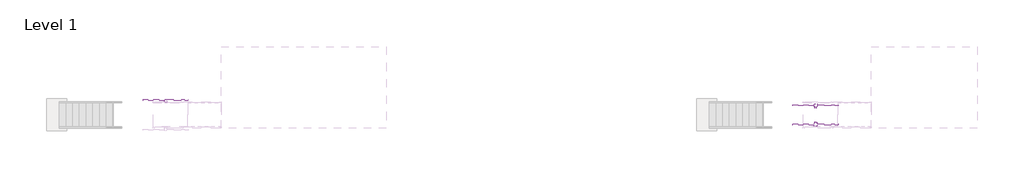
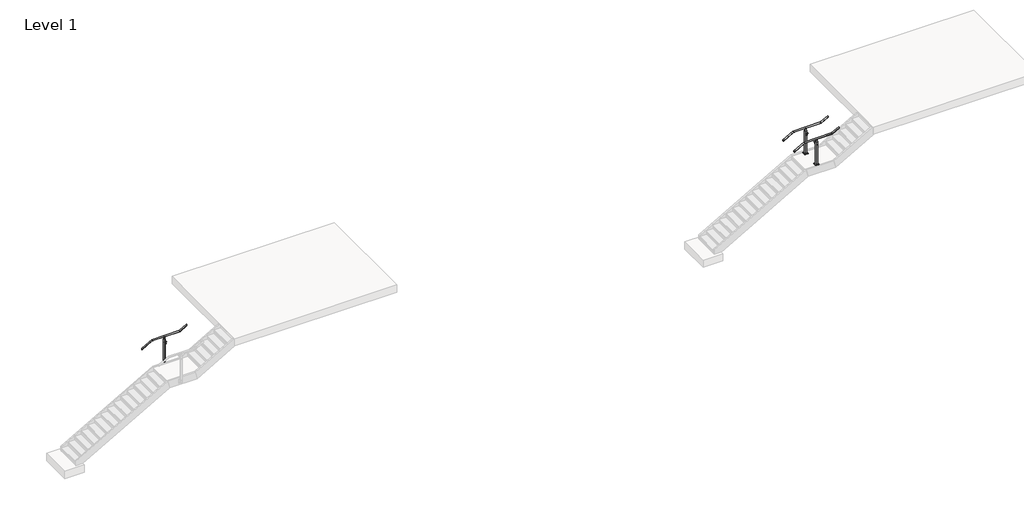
# One storey, part 21 of 26: 3 railings.
"""IFC4 building model written with IfcOpenShell, lengths in millimetres."""

from ifc_helpers import new_model, si_unit, point, frame, frame_2d, origin, place, context, project, spatial, polyline, circle_curve, ellipse_curve, trimmed, segment, composite_curve, outline, extrude, faceted_brep, element, save
from ifc_brep_helpers import plane_surface, cylinder_surface, advanced_brep

model = new_model("IFC4")

# Units and contexts
model_context = context("Model", 3, world=origin())
ifc_project = project(units=[si_unit("LENGTHUNIT", "METRE", prefix="MILLI")], contexts=[model_context])

# Site, building, storey
site = spatial("IfcSite", under=ifc_project)
building = spatial("IfcBuilding", under=site)
storey = spatial("IfcBuildingStorey", under=building, Name="Level 1", Elevation=0.0)

# Railings
placement = place(None, origin())
element("IfcRailing", 1, ObjectType="VIVA-CUBE-Glass-Fascia Mount-Stair-Landing", at=placement, inside=storey, context=model_context, shape_type="SolidModel", body=[
    advanced_brep(
    [(87644.1145262, 16840.3479941, 3009.6740933), (87644.1145262, 16891.1479941, 3009.6740933), (88031.8598629, 16840.3479941, 3231.2428571), (88031.8598629, 16891.1479941, 3231.2428571), (89098.6598629, 16840.3479941, 3231.2428571), (89098.6598629, 16891.1479941, 3231.2428571), (89368.1395262, 16840.3479941, 3385.2312362), (89368.1395262, 16891.1479941, 3385.2312362)],
    [
        (0, 1, ellipse_curve(frame((87644.1145262, 16865.7479941, 3009.6740933), z_axis=(-1.0, 0.0, 0.0), x_axis=(0.0, 0.0, -0.9999999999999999)), 29.2544781, 25.4)),
        (1, 0, ellipse_curve(frame((87644.1145262, 16865.7479941, 3009.6740933), z_axis=(-1.0, 0.0, 0.0), x_axis=(0.0, 0.0, -0.9999999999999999)), 29.2544781, 25.4)),
        (0, 2),
        (2, 3, ellipse_curve(frame((88031.8598629, 16865.7479941, 3231.2428571), z_axis=(-0.966499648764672, 0.0, -0.25666793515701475), x_axis=(0.25666793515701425, 0.0, -0.9664996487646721)), 26.2804027, 25.4)),
        (3, 1),
        (3, 2, ellipse_curve(frame((88031.8598629, 16865.7479941, 3231.2428571), z_axis=(-0.966499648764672, 0.0, -0.25666793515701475), x_axis=(0.25666793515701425, 0.0, -0.9664996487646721)), 26.2804027, 25.4)),
        (2, 4),
        (4, 5, ellipse_curve(frame((89098.6598629, 16865.7479941, 3231.2428571), z_axis=(-0.9664996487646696, 0.0, -0.2566679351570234), x_axis=(-0.2566679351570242, 0.0, 0.9664996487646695)), 26.2804027, 25.4)),
        (5, 3),
        (5, 4, ellipse_curve(frame((89098.6598629, 16865.7479941, 3231.2428571), z_axis=(-0.9664996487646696, 0.0, -0.2566679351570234), x_axis=(-0.2566679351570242, 0.0, 0.9664996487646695)), 26.2804027, 25.4)),
        (6, 7, ellipse_curve(frame((89368.1395262, 16865.7479941, 3385.2312362), z_axis=(1.0, 0.0, 0.0), x_axis=(0.0, 0.0, -1.0)), 29.2544781, 25.4)),
        (7, 6, ellipse_curve(frame((89368.1395262, 16865.7479941, 3385.2312362), z_axis=(1.0, 0.0, 0.0), x_axis=(0.0, 0.0, -1.0)), 29.2544781, 25.4)),
        (4, 6),
        (7, 5),
    ],
    [
        plane_surface(frame((87644.1145262, 16865.7479941, 3038.9285714), z_axis=(-1.0, 0.0, 0.0), x_axis=(0.0, 1.0, 0.0))),
        cylinder_surface(frame((87656.7164552, 16865.7479941, 3016.8751956), z_axis=(-0.868243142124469, 0.0, -0.49613893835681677), x_axis=(0.0, 1.0, 0.0)), 25.4),
        cylinder_surface(frame((88025.1145262, 16865.7479941, 3231.2428571), z_axis=(-1.0, 0.0, 0.0), x_axis=(0.0, 1.0, 0.0)), 25.4),
        plane_surface(frame((89368.1395262, 16865.7479941, 3414.4857143), z_axis=(1.0, 0.0, 0.0), x_axis=(0.0, 1.0, 0.0))),
        cylinder_surface(frame((89104.5164552, 16865.7479941, 3234.5894813), z_axis=(-0.8682431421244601, 0.0, -0.4961389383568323), x_axis=(0.0, 1.0, 0.0)), 25.4),
    ],
    [
        (0, [[1, 2]]),
        (1, [[-1, 3, 4, 5]]),
        (1, [[-2, -5, 6, -3]]),
        (2, [[-4, 7, 8, 9]]),
        (2, [[-6, -9, 10, -7]]),
        (3, [[11, 12]]),
        (4, [[-8, 13, -12, 14]]),
        (4, [[-10, -14, -11, -13]]),
    ],
),
    extrude(outline(composite_curve([segment(trimmed(circle_curve(frame_2d((0.0, 7.0)), 7.0), [point((0.0, 14.0))], [point((0.0, 0.0))], False, "CARTESIAN"), True, "CONTINUOUS"), segment(trimmed(circle_curve(frame_2d((0.0, 7.0)), 7.0), [point((0.0, 0.0))], [point((0.0, 14.0))], False, "CARTESIAN"), True, "CONTINUOUS")], self_intersect=False)), frame((88506.6192867, 16780.0641683, 2972.3156836), z_axis=(-0.0012555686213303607, 0.0, 0.999999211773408), x_axis=(-0.999999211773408, 0.0, -0.0012555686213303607)), (0.0, 0.0, 1.0), 75.97),
    extrude(outline(composite_curve([segment(polyline([(16785.3458245, 3056.8509005), (16786.3722142, 3055.8335135)]), True, "CONTINUOUS"), segment(trimmed(circle_curve(frame_2d((16785.3162363, 3054.7681916)), 1.5), [point((16786.3722142, 3055.8335135))], [point((16786.3016378, 3053.6372698))], False, "CARTESIAN"), True, "CONTINUOUS"), segment(trimmed(circle_curve(frame_2d((16771.8162363, 3070.2618193)), 22.05), [point((16786.3016378, 3053.6372698))], [point((16757.3308348, 3053.6372698))], False, "CARTESIAN"), True, "CONTINUOUS"), segment(trimmed(circle_curve(frame_2d((16758.3162363, 3054.7681916)), 1.5), [point((16757.3308348, 3053.6372698))], [point((16757.2602584, 3055.8335135))], False, "CARTESIAN"), True, "CONTINUOUS"), segment(polyline([(16757.2602584, 3055.8335135), (16758.2866481, 3056.8509005)]), True, "CONTINUOUS"), segment(trimmed(circle_curve(frame_2d((16771.8162363, 3070.2618193)), 19.05), [point((16758.2866481, 3056.8509005))], [point((16785.3458245, 3056.8509005))], True, "CARTESIAN"), True, "CONTINUOUS")], self_intersect=False)), frame((88468.4477528, 0.0, 0.0), z_axis=(1.0, 0.0, 0.0), x_axis=(0.0, 1.0, 0.0)), (0.0, 0.0, 1.0), 74.5229187),
    extrude(outline(composite_curve([segment(trimmed(circle_curve(frame_2d((2999.1922796, 88506.5593832)), 12.5), [point((2999.1922796, 88519.0593832))], [point((2999.1922796, 88494.0593832))], False, "CARTESIAN"), True, "CONTINUOUS"), segment(trimmed(circle_curve(frame_2d((2999.1922796, 88506.5593832)), 12.5), [point((2999.1922796, 88494.0593832))], [point((2999.1922796, 88519.0593832))], False, "CARTESIAN"), True, "CONTINUOUS")], self_intersect=False)), frame((0.0, 16758.2866481, 0.0), z_axis=(0.0, 1.0, 0.0), x_axis=(0.0, 0.0, 1.0)), (0.0, 0.0, 1.0), 82.061346),
    extrude(outline(polyline([(88570.0239012, 16811.2349585), (88443.0239012, 16811.2349585), (88443.0239012, 16821.2171585), (88570.0239012, 16821.2171585), (88570.0239012, 16811.2349585)])), frame((0.0, 0.0, 1999.3428571), z_axis=(0.0, 0.0, 1.0), x_axis=(1.0, 0.0, 0.0)), (0.0, 0.0, 1.0), 152.4),
    extrude(outline(composite_curve([segment(polyline([(2151.7428571, 88567.4839012), (2151.7428571, 88445.5639012)]), True, "CONTINUOUS"), segment(trimmed(circle_curve(frame_2d((2149.2028571, 88445.5639012)), 2.54), [point((2151.7428571, 88445.5639012))], [point((2149.2028571, 88443.0239012))], False, "CARTESIAN"), True, "CONTINUOUS"), segment(polyline([(2149.2028571, 88443.0239012), (2001.8828571, 88443.0239012)]), True, "CONTINUOUS"), segment(trimmed(circle_curve(frame_2d((2001.8828571, 88445.5639012)), 2.54), [point((2001.8828571, 88443.0239012))], [point((1999.3428571, 88445.5639012))], False, "CARTESIAN"), True, "CONTINUOUS"), segment(polyline([(1999.3428571, 88445.5639012), (1999.3428571, 88567.4839012)]), True, "CONTINUOUS"), segment(trimmed(circle_curve(frame_2d((2001.8828571, 88567.4839012)), 2.54), [point((1999.3428571, 88567.4839012))], [point((2001.8828571, 88570.0239012))], False, "CARTESIAN"), True, "CONTINUOUS"), segment(polyline([(2001.8828571, 88570.0239012), (2149.2028571, 88570.0239012)]), True, "CONTINUOUS"), segment(trimmed(circle_curve(frame_2d((2149.2028571, 88567.4839012)), 2.54), [point((2149.2028571, 88570.0239012))], [point((2151.7428571, 88567.4839012))], False, "CARTESIAN"), True, "CONTINUOUS")], self_intersect=False), holes=[composite_curve([segment(trimmed(circle_curve(frame_2d((2132.6928571, 88462.0739012)), 5.55625), [point((2132.6928571, 88467.6301512))], [point((2132.6928571, 88456.5176512))], True, "CARTESIAN"), True, "CONTINUOUS"), segment(trimmed(circle_curve(frame_2d((2132.6928571, 88462.0739012)), 5.55625), [point((2132.6928571, 88456.5176512))], [point((2132.6928571, 88467.6301512))], True, "CARTESIAN"), True, "CONTINUOUS")], self_intersect=False), composite_curve([segment(trimmed(circle_curve(frame_2d((2132.6928571, 88550.9739012)), 5.55625), [point((2132.6928571, 88556.5301512))], [point((2132.6928571, 88545.4176512))], True, "CARTESIAN"), True, "CONTINUOUS"), segment(trimmed(circle_curve(frame_2d((2132.6928571, 88550.9739012)), 5.55625), [point((2132.6928571, 88545.4176512))], [point((2132.6928571, 88556.5301512))], True, "CARTESIAN"), True, "CONTINUOUS")], self_intersect=False), composite_curve([segment(trimmed(circle_curve(frame_2d((2018.3928571, 88550.9739012)), 5.55625), [point((2018.3928571, 88556.5301512))], [point((2018.3928571, 88545.4176512))], True, "CARTESIAN"), True, "CONTINUOUS"), segment(trimmed(circle_curve(frame_2d((2018.3928571, 88550.9739012)), 5.55625), [point((2018.3928571, 88545.4176512))], [point((2018.3928571, 88556.5301512))], True, "CARTESIAN"), True, "CONTINUOUS")], self_intersect=False), composite_curve([segment(trimmed(circle_curve(frame_2d((2018.3928571, 88462.0739012)), 5.55625), [point((2018.3928571, 88467.6301512))], [point((2018.3928571, 88456.5176512))], True, "CARTESIAN"), True, "CONTINUOUS"), segment(trimmed(circle_curve(frame_2d((2018.3928571, 88462.0739012)), 5.55625), [point((2018.3928571, 88456.5176512))], [point((2018.3928571, 88467.6301512))], True, "CARTESIAN"), True, "CONTINUOUS")], self_intersect=False)]), frame((0.0, 16821.2171585, 0.0), z_axis=(0.0, 1.0, 0.0), x_axis=(0.0, 0.0, 1.0)), (0.0, 0.0, 1.0), 9.9822),
    extrude(outline(polyline([(88474.7739012, 16821.2171585), (88474.7739012, 16897.4979941), (88538.2739012, 16897.4979941), (88538.2739012, 16821.2171585), (88474.7739012, 16821.2171585)])), frame((0.0, 0.0, 2026.3303571), z_axis=(0.0, 0.0, 1.0), x_axis=(1.0, 0.0, 0.0)), (0.0, 0.0, 1.0), 9.5123),
    extrude(outline(polyline([(88474.7739012, 16821.2171585), (88474.7739012, 16897.4979941), (88538.2739012, 16897.4979941), (88538.2739012, 16821.2171585), (88474.7739012, 16821.2171585)])), frame((0.0, 0.0, 2115.2303571), z_axis=(0.0, 0.0, 1.0), x_axis=(1.0, 0.0, 0.0)), (0.0, 0.0, 1.0), 9.525),
    extrude(outline(composite_curve([segment(trimmed(circle_curve(frame_2d((2999.1922796, 88506.5593832)), 12.5), [point((2999.1922796, 88494.0593832))], [point((2999.1922796, 88519.0593832))], False, "CARTESIAN"), True, "CONTINUOUS"), segment(trimmed(circle_curve(frame_2d((2999.1922796, 88506.5593832)), 12.5), [point((2999.1922796, 88519.0593832))], [point((2999.1922796, 88494.0593832))], False, "CARTESIAN"), True, "CONTINUOUS")], self_intersect=False)), frame((0.0, 16891.1479941, 0.0), z_axis=(0.0, 1.0, 0.0), x_axis=(0.0, 0.0, 1.0)), (0.0, 0.0, 1.0), 7.62),
    faceted_brep([(88519.2239012, 16853.0479941, 3174.433132), (88519.2239012, 16861.7792441, 3174.433132), (88493.8239012, 16861.7792441, 3174.433132), (88493.8239012, 16853.0479941, 3174.433132), (88493.8239012, 16878.4479941, 3174.433132), (88493.8239012, 16869.7167441, 3174.433132), (88519.2239012, 16869.7167441, 3174.433132), (88519.2239012, 16878.4479941, 3174.433132), (88531.9239012, 16840.3479941, 3118.2776425), (88531.9239012, 16891.1479941, 3118.2776425), (88481.1239012, 16840.3479941, 3118.2776425), (88481.1239012, 16891.1479941, 3118.2776425), (88531.9239012, 16840.3479941, 2035.8426571), (88481.1239012, 16840.3479941, 2035.8426571), (88481.1239012, 16891.1479941, 2035.8426571), (88531.9239012, 16891.1479941, 2035.8426571), (88493.8239012, 16869.7167441, 3186.4734584), (88493.8239012, 16861.7792441, 3186.4734584), (88519.2239012, 16861.7792441, 3186.4734584), (88519.2239012, 16869.7167441, 3186.4734584)], [[[0, 1, 2, 3]], [[4, 5, 6, 7]], [[8, 9, 7, 6, 1, 0]], [[3, 10, 8, 0]], [[3, 2, 5, 4, 11, 10]], [[7, 9, 11, 4]], [[12, 13, 14, 15]], [[12, 8, 10, 13]], [[13, 10, 11, 14]], [[14, 11, 9, 15]], [[15, 9, 8, 12]], [[16, 17, 18, 19]], [[19, 6, 5, 16]], [[18, 1, 6, 19]], [[17, 2, 1, 18]], [[16, 5, 2, 17]]]),
    extrude(outline(composite_curve([segment(trimmed(circle_curve(frame_2d((16879.7626263, 3206.6530378)), 2.9558141), [point((16878.2150686, 3209.1713512))], [point((16882.050966, 3204.7821187))], False, "CARTESIAN"), True, "CONTINUOUS"), segment(trimmed(circle_curve(frame_2d((16865.7847288, 3232.0488022)), 31.75), [point((16882.050966, 3204.7821187))], [point((16850.5340738, 3204.2013603))], False, "CARTESIAN"), True, "CONTINUOUS"), segment(trimmed(circle_curve(frame_2d((16852.0113788, 3206.5739456)), 2.7949225), [point((16850.5340738, 3204.2013603))], [point((16853.256032, 3209.0764304))], False, "CARTESIAN"), True, "CONTINUOUS"), segment(trimmed(circle_curve(frame_2d((16865.6512657, 3231.2861755)), 25.4345159), [point((16853.256032, 3209.0764304))], [point((16878.2150686, 3209.1713512))], True, "CARTESIAN"), True, "CONTINUOUS")], self_intersect=False)), frame((88461.2865012, 0.0, 0.0), z_axis=(1.0, 0.0, 0.0), x_axis=(0.0, 1.0, 0.0)), (0.0, 0.0, 1.0), 90.4748),
    extrude(outline(composite_curve([segment(polyline([(3200.5113742, 88533.5918161), (3200.5113742, 88479.4559863)]), True, "CONTINUOUS"), segment(trimmed(circle_curve(frame_2d((3186.1434593, 88479.4559863)), 14.3679149), [point((3200.5113742, 88479.4559863))], [point((3186.1434593, 88493.8239012))], True, "CARTESIAN"), True, "CONTINUOUS"), segment(trimmed(circle_curve(frame_2d((3186.1434593, 88506.5239012)), 12.7), [point((3186.1434593, 88493.8239012))], [point((3186.1434593, 88519.2239012))], False, "CARTESIAN"), True, "CONTINUOUS"), segment(trimmed(circle_curve(frame_2d((3186.1434593, 88533.5918161)), 14.3679149), [point((3186.1434593, 88519.2239012))], [point((3200.5113742, 88533.5918161))], True, "CARTESIAN"), True, "CONTINUOUS")], self_intersect=False)), frame((0.0, 16863.2079941, 0.0), z_axis=(0.0, 1.0, 0.0), x_axis=(0.0, 0.0, 1.0)), (0.0, 0.0, 1.0), 5.08),
])
element("IfcRailing", 2, ObjectType="VIVA-CUBE-Glass-Floor Mount-Stair-Landing", at=placement, inside=storey, context=model_context, shape_type="SolidModel", body=[
    advanced_brep(
    [(112321.0882982, 16646.1395941, 3009.6740933), (112321.0882982, 16696.9395941, 3009.6740933), (112708.8336349, 16646.1395941, 3231.2428571), (112708.8336349, 16696.9395941, 3231.2428571), (113775.6336349, 16646.1395941, 3231.2428571), (113775.6336349, 16696.9395941, 3231.2428571), (114045.1132982, 16646.1395941, 3385.2312362), (114045.1132982, 16696.9395941, 3385.2312362)],
    [
        (0, 1, ellipse_curve(frame((112321.0882982, 16671.5395941, 3009.6740933), z_axis=(-1.0, 0.0, 0.0), x_axis=(0.0, 0.0, -0.9999999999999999)), 29.2544781, 25.4)),
        (1, 0, ellipse_curve(frame((112321.0882982, 16671.5395941, 3009.6740933), z_axis=(-1.0, 0.0, 0.0), x_axis=(0.0, 0.0, -0.9999999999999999)), 29.2544781, 25.4)),
        (0, 2),
        (2, 3, ellipse_curve(frame((112708.8336349, 16671.5395941, 3231.2428571), z_axis=(-0.966499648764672, 0.0, -0.25666793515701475), x_axis=(0.25666793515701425, 0.0, -0.9664996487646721)), 26.2804027, 25.4)),
        (3, 1),
        (3, 2, ellipse_curve(frame((112708.8336349, 16671.5395941, 3231.2428571), z_axis=(-0.966499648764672, 0.0, -0.25666793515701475), x_axis=(0.25666793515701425, 0.0, -0.9664996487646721)), 26.2804027, 25.4)),
        (2, 4),
        (4, 5, ellipse_curve(frame((113775.6336349, 16671.5395941, 3231.2428571), z_axis=(-0.9664996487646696, 0.0, -0.2566679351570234), x_axis=(-0.2566679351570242, 0.0, 0.9664996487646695)), 26.2804027, 25.4)),
        (5, 3),
        (5, 4, ellipse_curve(frame((113775.6336349, 16671.5395941, 3231.2428571), z_axis=(-0.9664996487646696, 0.0, -0.2566679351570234), x_axis=(-0.2566679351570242, 0.0, 0.9664996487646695)), 26.2804027, 25.4)),
        (6, 7, ellipse_curve(frame((114045.1132982, 16671.5395941, 3385.2312362), z_axis=(1.0, 0.0, 0.0), x_axis=(0.0, 0.0, -1.0)), 29.2544781, 25.4)),
        (7, 6, ellipse_curve(frame((114045.1132982, 16671.5395941, 3385.2312362), z_axis=(1.0, 0.0, 0.0), x_axis=(0.0, 0.0, -1.0)), 29.2544781, 25.4)),
        (4, 6),
        (7, 5),
    ],
    [
        plane_surface(frame((112321.0882982, 16671.5395941, 3038.9285714), z_axis=(-1.0, 0.0, 0.0), x_axis=(0.0, 1.0, 0.0))),
        cylinder_surface(frame((112333.6902273, 16671.5395941, 3016.8751956), z_axis=(-0.868243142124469, 0.0, -0.49613893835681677), x_axis=(0.0, 1.0, 0.0)), 25.4),
        cylinder_surface(frame((112702.0882982, 16671.5395941, 3231.2428571), z_axis=(-1.0, 0.0, 0.0), x_axis=(0.0, 1.0, 0.0)), 25.4),
        plane_surface(frame((114045.1132982, 16671.5395941, 3414.4857143), z_axis=(1.0, 0.0, 0.0), x_axis=(0.0, 1.0, 0.0))),
        cylinder_surface(frame((113781.4902273, 16671.5395941, 3234.5894813), z_axis=(-0.8682431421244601, 0.0, -0.4961389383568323), x_axis=(0.0, 1.0, 0.0)), 25.4),
    ],
    [
        (0, [[1, 2]]),
        (1, [[-1, 3, 4, 5]]),
        (1, [[-2, -5, 6, -3]]),
        (2, [[-4, 7, 8, 9]]),
        (2, [[-6, -9, 10, -7]]),
        (3, [[11, 12]]),
        (4, [[-8, 13, -12, 14]]),
        (4, [[-10, -14, -11, -13]]),
    ],
),
    extrude(outline(composite_curve([segment(trimmed(circle_curve(frame_2d((0.0, 7.0)), 7.0), [point((0.0, 14.0))], [point((0.0, 0.0))], False, "CARTESIAN"), True, "CONTINUOUS"), segment(trimmed(circle_curve(frame_2d((0.0, 7.0)), 7.0), [point((0.0, 0.0))], [point((0.0, 14.0))], False, "CARTESIAN"), True, "CONTINUOUS")], self_intersect=False)), frame((113183.5930588, 16585.8557683, 2972.3156836), z_axis=(-0.0012555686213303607, 0.0, 0.999999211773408), x_axis=(-0.999999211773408, 0.0, -0.0012555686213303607)), (0.0, 0.0, 1.0), 75.97),
    extrude(outline(composite_curve([segment(polyline([(16591.1374245, 3056.8509005), (16592.1638142, 3055.8335135)]), True, "CONTINUOUS"), segment(trimmed(circle_curve(frame_2d((16591.1078363, 3054.7681916)), 1.5), [point((16592.1638142, 3055.8335135))], [point((16592.0932378, 3053.6372698))], False, "CARTESIAN"), True, "CONTINUOUS"), segment(trimmed(circle_curve(frame_2d((16577.6078363, 3070.2618193)), 22.05), [point((16592.0932378, 3053.6372698))], [point((16563.1224348, 3053.6372698))], False, "CARTESIAN"), True, "CONTINUOUS"), segment(trimmed(circle_curve(frame_2d((16564.1078363, 3054.7681916)), 1.5), [point((16563.1224348, 3053.6372698))], [point((16563.0518584, 3055.8335135))], False, "CARTESIAN"), True, "CONTINUOUS"), segment(polyline([(16563.0518584, 3055.8335135), (16564.0782481, 3056.8509005)]), True, "CONTINUOUS"), segment(trimmed(circle_curve(frame_2d((16577.6078363, 3070.2618193)), 19.05), [point((16564.0782481, 3056.8509005))], [point((16591.1374245, 3056.8509005))], True, "CARTESIAN"), True, "CONTINUOUS")], self_intersect=False)), frame((113145.4215249, 0.0, 0.0), z_axis=(1.0, 0.0, 0.0), x_axis=(0.0, 1.0, 0.0)), (0.0, 0.0, 1.0), 74.5229187),
    extrude(outline(composite_curve([segment(trimmed(circle_curve(frame_2d((2999.1922796, 113183.5331553)), 12.5), [point((2999.1922796, 113196.0331553))], [point((2999.1922796, 113171.0331553))], False, "CARTESIAN"), True, "CONTINUOUS"), segment(trimmed(circle_curve(frame_2d((2999.1922796, 113183.5331553)), 12.5), [point((2999.1922796, 113171.0331553))], [point((2999.1922796, 113196.0331553))], False, "CARTESIAN"), True, "CONTINUOUS")], self_intersect=False)), frame((0.0, 16564.0782481, 0.0), z_axis=(0.0, 1.0, 0.0), x_axis=(0.0, 0.0, 1.0)), (0.0, 0.0, 1.0), 82.061346),
    extrude(outline(composite_curve([segment(trimmed(circle_curve(frame_2d((2999.1922796, 113183.5331553)), 12.5), [point((2999.1922796, 113171.0331553))], [point((2999.1922796, 113196.0331553))], False, "CARTESIAN"), True, "CONTINUOUS"), segment(trimmed(circle_curve(frame_2d((2999.1922796, 113183.5331553)), 12.5), [point((2999.1922796, 113196.0331553))], [point((2999.1922796, 113171.0331553))], False, "CARTESIAN"), True, "CONTINUOUS")], self_intersect=False)), frame((0.0, 16696.9395941, 0.0), z_axis=(0.0, 1.0, 0.0), x_axis=(0.0, 0.0, 1.0)), (0.0, 0.0, 1.0), 7.62),
    extrude(outline(polyline([(113246.9976732, 16608.0395941), (113119.9976732, 16608.0395941), (113119.9976732, 16735.0395941), (113246.9976732, 16735.0395941), (113246.9976732, 16608.0395941)]), holes=[composite_curve([segment(trimmed(circle_curve(frame_2d((113139.0476732, 16715.9895941)), 4.7625), [point((113139.0476732, 16720.7520941))], [point((113139.0476732, 16711.2270941))], True, "CARTESIAN"), True, "CONTINUOUS"), segment(trimmed(circle_curve(frame_2d((113139.0476732, 16715.9895941)), 4.7625), [point((113139.0476732, 16711.2270941))], [point((113139.0476732, 16720.7520941))], True, "CARTESIAN"), True, "CONTINUOUS")], self_intersect=False), composite_curve([segment(trimmed(circle_curve(frame_2d((113139.0476732, 16627.0895941)), 4.7625), [point((113139.0476732, 16631.8520941))], [point((113139.0476732, 16622.3270941))], True, "CARTESIAN"), True, "CONTINUOUS"), segment(trimmed(circle_curve(frame_2d((113139.0476732, 16627.0895941)), 4.7625), [point((113139.0476732, 16622.3270941))], [point((113139.0476732, 16631.8520941))], True, "CARTESIAN"), True, "CONTINUOUS")], self_intersect=False), composite_curve([segment(trimmed(circle_curve(frame_2d((113227.9476732, 16715.9895941)), 4.7625), [point((113227.9476732, 16720.7520941))], [point((113227.9476732, 16711.2270941))], True, "CARTESIAN"), True, "CONTINUOUS"), segment(trimmed(circle_curve(frame_2d((113227.9476732, 16715.9895941)), 4.7625), [point((113227.9476732, 16711.2270941))], [point((113227.9476732, 16720.7520941))], True, "CARTESIAN"), True, "CONTINUOUS")], self_intersect=False), composite_curve([segment(trimmed(circle_curve(frame_2d((113227.9476732, 16627.0895941)), 4.7625), [point((113227.9476732, 16631.8520941))], [point((113227.9476732, 16622.3270941))], True, "CARTESIAN"), True, "CONTINUOUS"), segment(trimmed(circle_curve(frame_2d((113227.9476732, 16627.0895941)), 4.7625), [point((113227.9476732, 16622.3270941))], [point((113227.9476732, 16631.8520941))], True, "CARTESIAN"), True, "CONTINUOUS")], self_intersect=False)]), frame((0.0, 0.0, 2177.1428571), z_axis=(0.0, 0.0, 1.0), x_axis=(1.0, 0.0, 0.0)), (0.0, 0.0, 1.0), 25.4),
    faceted_brep([(113196.1976732, 16658.8395941, 3174.433132), (113196.1976732, 16667.5708441, 3174.433132), (113170.7976732, 16667.5708441, 3174.433132), (113170.7976732, 16658.8395941, 3174.433132), (113170.7976732, 16684.2395941, 3174.433132), (113170.7976732, 16675.5083441, 3174.433132), (113196.1976732, 16675.5083441, 3174.433132), (113196.1976732, 16684.2395941, 3174.433132), (113208.8976732, 16646.1395941, 3118.2776425), (113208.8976732, 16696.9395941, 3118.2776425), (113158.0976732, 16646.1395941, 3118.2776425), (113158.0976732, 16696.9395941, 3118.2776425), (113208.8976732, 16646.1395941, 2202.5428571), (113158.0976732, 16646.1395941, 2202.5428571), (113158.0976732, 16696.9395941, 2202.5428571), (113208.8976732, 16696.9395941, 2202.5428571), (113170.7976732, 16675.5083441, 3186.4734584), (113170.7976732, 16667.5708441, 3186.4734584), (113196.1976732, 16667.5708441, 3186.4734584), (113196.1976732, 16675.5083441, 3186.4734584)], [[[0, 1, 2, 3]], [[4, 5, 6, 7]], [[8, 9, 7, 6, 1, 0]], [[3, 10, 8, 0]], [[3, 2, 5, 4, 11, 10]], [[7, 9, 11, 4]], [[12, 13, 14, 15]], [[12, 8, 10, 13]], [[13, 10, 11, 14]], [[14, 11, 9, 15]], [[15, 9, 8, 12]], [[16, 17, 18, 19]], [[19, 6, 5, 16]], [[18, 1, 6, 19]], [[17, 2, 1, 18]], [[16, 5, 2, 17]]]),
    extrude(outline(composite_curve([segment(trimmed(circle_curve(frame_2d((16685.5542263, 3206.6530378)), 2.9558141), [point((16684.0066686, 3209.1713512))], [point((16687.842566, 3204.7821187))], False, "CARTESIAN"), True, "CONTINUOUS"), segment(trimmed(circle_curve(frame_2d((16671.5763288, 3232.0488022)), 31.75), [point((16687.842566, 3204.7821187))], [point((16656.3256738, 3204.2013603))], False, "CARTESIAN"), True, "CONTINUOUS"), segment(trimmed(circle_curve(frame_2d((16657.8029788, 3206.5739456)), 2.7949225), [point((16656.3256738, 3204.2013603))], [point((16659.047632, 3209.0764304))], False, "CARTESIAN"), True, "CONTINUOUS"), segment(trimmed(circle_curve(frame_2d((16671.4428657, 3231.2861755)), 25.4345159), [point((16659.047632, 3209.0764304))], [point((16684.0066686, 3209.1713512))], True, "CARTESIAN"), True, "CONTINUOUS")], self_intersect=False)), frame((113138.2602732, 0.0, 0.0), z_axis=(1.0, 0.0, 0.0), x_axis=(0.0, 1.0, 0.0)), (0.0, 0.0, 1.0), 90.4748),
    extrude(outline(composite_curve([segment(polyline([(3200.5113742, 113210.5655881), (3200.5113742, 113156.4297584)]), True, "CONTINUOUS"), segment(trimmed(circle_curve(frame_2d((3186.1434593, 113156.4297584)), 14.3679149), [point((3200.5113742, 113156.4297584))], [point((3186.1434593, 113170.7976732))], True, "CARTESIAN"), True, "CONTINUOUS"), segment(trimmed(circle_curve(frame_2d((3186.1434593, 113183.4976732)), 12.7), [point((3186.1434593, 113170.7976732))], [point((3186.1434593, 113196.1976732))], False, "CARTESIAN"), True, "CONTINUOUS"), segment(trimmed(circle_curve(frame_2d((3186.1434593, 113210.5655881)), 14.3679149), [point((3186.1434593, 113196.1976732))], [point((3200.5113742, 113210.5655881))], True, "CARTESIAN"), True, "CONTINUOUS")], self_intersect=False)), frame((0.0, 16668.9995941, 0.0), z_axis=(0.0, 1.0, 0.0), x_axis=(0.0, 0.0, 1.0)), (0.0, 0.0, 1.0), 5.08),
])
element("IfcRailing", 3, ObjectType="VIVA-CUBE-Glass-Floor Mount-Stair-Landing", at=placement, inside=storey, context=model_context, shape_type="SolidModel", body=[
    advanced_brep(
    [(112321.0882982, 15909.5395941, 3009.6740933), (112321.0882982, 15960.3395941, 3009.6740933), (112708.8336349, 15909.5395941, 3231.2428571), (112708.8336349, 15960.3395941, 3231.2428571), (113775.6336349, 15909.5395941, 3231.2428571), (113775.6336349, 15960.3395941, 3231.2428571), (114045.1132982, 15909.5395941, 3385.2312362), (114045.1132982, 15960.3395941, 3385.2312362)],
    [
        (0, 1, ellipse_curve(frame((112321.0882982, 15934.9395941, 3009.6740933), z_axis=(-1.0, 0.0, 0.0), x_axis=(0.0, 0.0, -0.9999999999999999)), 29.2544781, 25.4)),
        (1, 0, ellipse_curve(frame((112321.0882982, 15934.9395941, 3009.6740933), z_axis=(-1.0, 0.0, 0.0), x_axis=(0.0, 0.0, -0.9999999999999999)), 29.2544781, 25.4)),
        (0, 2),
        (2, 3, ellipse_curve(frame((112708.8336349, 15934.9395941, 3231.2428571), z_axis=(-0.966499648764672, 0.0, -0.25666793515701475), x_axis=(0.25666793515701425, 0.0, -0.9664996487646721)), 26.2804027, 25.4)),
        (3, 1),
        (3, 2, ellipse_curve(frame((112708.8336349, 15934.9395941, 3231.2428571), z_axis=(-0.966499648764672, 0.0, -0.25666793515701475), x_axis=(0.25666793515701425, 0.0, -0.9664996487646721)), 26.2804027, 25.4)),
        (2, 4),
        (4, 5, ellipse_curve(frame((113775.6336349, 15934.9395941, 3231.2428571), z_axis=(-0.9664996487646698, 0.0, -0.2566679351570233), x_axis=(-0.25666793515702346, 0.0, 0.9664996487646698)), 26.2804027, 25.4)),
        (5, 3),
        (5, 4, ellipse_curve(frame((113775.6336349, 15934.9395941, 3231.2428571), z_axis=(-0.9664996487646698, 0.0, -0.2566679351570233), x_axis=(-0.25666793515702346, 0.0, 0.9664996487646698)), 26.2804027, 25.4)),
        (6, 7, ellipse_curve(frame((114045.1132982, 15934.9395941, 3385.2312362), z_axis=(1.0, 0.0, 0.0), x_axis=(0.0, 0.0, -1.0)), 29.2544781, 25.4)),
        (7, 6, ellipse_curve(frame((114045.1132982, 15934.9395941, 3385.2312362), z_axis=(1.0, 0.0, 0.0), x_axis=(0.0, 0.0, -1.0)), 29.2544781, 25.4)),
        (4, 6),
        (7, 5),
    ],
    [
        plane_surface(frame((112321.0882982, 15934.9395941, 3038.9285714), z_axis=(-1.0, 0.0, 0.0), x_axis=(0.0, 1.0, 0.0))),
        cylinder_surface(frame((112333.6902273, 15934.9395941, 3016.8751956), z_axis=(-0.868243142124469, 0.0, -0.49613893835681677), x_axis=(0.0, 1.0, 0.0)), 25.4),
        cylinder_surface(frame((112702.0882982, 15934.9395941, 3231.2428571), z_axis=(-1.0, 0.0, 0.0), x_axis=(0.0, 1.0, 0.0)), 25.4),
        plane_surface(frame((114045.1132982, 15934.9395941, 3414.4857143), z_axis=(1.0, 0.0, 0.0), x_axis=(0.0, 1.0, 0.0))),
        cylinder_surface(frame((113781.4902273, 15934.9395941, 3234.5894813), z_axis=(-0.8682431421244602, 0.0, -0.4961389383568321), x_axis=(0.0, 1.0, 0.0)), 25.4),
    ],
    [
        (0, [[1, 2]]),
        (1, [[-1, 3, 4, 5]]),
        (1, [[-2, -5, 6, -3]]),
        (2, [[-4, 7, 8, 9]]),
        (2, [[-6, -9, 10, -7]]),
        (3, [[11, 12]]),
        (4, [[-8, 13, -12, 14]]),
        (4, [[-10, -14, -11, -13]]),
    ],
),
    extrude(outline(composite_curve([segment(trimmed(circle_curve(frame_2d((0.0, -7.0)), 7.0), [point((0.0, -14.0))], [point((0.0, 0.0))], False, "CARTESIAN"), True, "CONTINUOUS"), segment(trimmed(circle_curve(frame_2d((0.0, -7.0)), 7.0), [point((0.0, 0.0))], [point((0.0, -14.0))], False, "CARTESIAN"), True, "CONTINUOUS")], self_intersect=False)), frame((113183.5930588, 16020.6234199, 2972.3156836), z_axis=(-0.0012555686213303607, 0.0, 0.999999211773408), x_axis=(-0.999999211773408, 0.0, -0.0012555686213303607)), (0.0, 0.0, 1.0), 75.97),
    extrude(outline(composite_curve([segment(trimmed(circle_curve(frame_2d((16028.8713519, 3070.2618193)), 19.05), [point((16015.3417637, 3056.8509005))], [point((16042.4009401, 3056.8509005))], True, "CARTESIAN"), True, "CONTINUOUS"), segment(polyline([(16042.4009401, 3056.8509005), (16043.4273298, 3055.8335135)]), True, "CONTINUOUS"), segment(trimmed(circle_curve(frame_2d((16042.3713519, 3054.7681916)), 1.5), [point((16043.4273298, 3055.8335135))], [point((16043.3567534, 3053.6372698))], False, "CARTESIAN"), True, "CONTINUOUS"), segment(trimmed(circle_curve(frame_2d((16028.8713519, 3070.2618193)), 22.05), [point((16043.3567534, 3053.6372698))], [point((16014.3859504, 3053.6372698))], False, "CARTESIAN"), True, "CONTINUOUS"), segment(trimmed(circle_curve(frame_2d((16015.3713519, 3054.7681916)), 1.5), [point((16014.3859504, 3053.6372698))], [point((16014.315374, 3055.8335135))], False, "CARTESIAN"), True, "CONTINUOUS"), segment(polyline([(16014.315374, 3055.8335135), (16015.3417637, 3056.8509005)]), True, "CONTINUOUS")], self_intersect=False)), frame((113145.4215249, 0.0, 0.0), z_axis=(1.0, 0.0, 0.0), x_axis=(0.0, 1.0, 0.0)), (0.0, 0.0, 1.0), 74.5229187),
    extrude(outline(composite_curve([segment(trimmed(circle_curve(frame_2d((2999.1922796, 113183.5331553)), 12.5), [point((2999.1922796, 113196.0331553))], [point((2999.1922796, 113171.0331553))], False, "CARTESIAN"), True, "CONTINUOUS"), segment(trimmed(circle_curve(frame_2d((2999.1922796, 113183.5331553)), 12.5), [point((2999.1922796, 113171.0331553))], [point((2999.1922796, 113196.0331553))], False, "CARTESIAN"), True, "CONTINUOUS")], self_intersect=False)), frame((0.0, 15960.3395941, 0.0), z_axis=(0.0, 1.0, 0.0), x_axis=(0.0, 0.0, 1.0)), (0.0, 0.0, 1.0), 82.061346),
    extrude(outline(composite_curve([segment(trimmed(circle_curve(frame_2d((2999.1922796, 113183.5331553)), 12.5), [point((2999.1922796, 113171.0331553))], [point((2999.1922796, 113196.0331553))], False, "CARTESIAN"), True, "CONTINUOUS"), segment(trimmed(circle_curve(frame_2d((2999.1922796, 113183.5331553)), 12.5), [point((2999.1922796, 113196.0331553))], [point((2999.1922796, 113171.0331553))], False, "CARTESIAN"), True, "CONTINUOUS")], self_intersect=False)), frame((0.0, 15901.9195941, 0.0), z_axis=(0.0, 1.0, 0.0), x_axis=(0.0, 0.0, 1.0)), (0.0, 0.0, 1.0), 7.62),
    extrude(outline(polyline([(113246.9976732, 15998.4395941), (113246.9976732, 15871.4395941), (113119.9976732, 15871.4395941), (113119.9976732, 15998.4395941), (113246.9976732, 15998.4395941)]), holes=[composite_curve([segment(trimmed(circle_curve(frame_2d((113139.0476732, 15890.4895941)), 4.7625), [point((113139.0476732, 15885.7270941))], [point((113139.0476732, 15895.2520941))], True, "CARTESIAN"), True, "CONTINUOUS"), segment(trimmed(circle_curve(frame_2d((113139.0476732, 15890.4895941)), 4.7625), [point((113139.0476732, 15895.2520941))], [point((113139.0476732, 15885.7270941))], True, "CARTESIAN"), True, "CONTINUOUS")], self_intersect=False), composite_curve([segment(trimmed(circle_curve(frame_2d((113139.0476732, 15979.3895941)), 4.7625), [point((113139.0476732, 15974.6270941))], [point((113139.0476732, 15984.1520941))], True, "CARTESIAN"), True, "CONTINUOUS"), segment(trimmed(circle_curve(frame_2d((113139.0476732, 15979.3895941)), 4.7625), [point((113139.0476732, 15984.1520941))], [point((113139.0476732, 15974.6270941))], True, "CARTESIAN"), True, "CONTINUOUS")], self_intersect=False), composite_curve([segment(trimmed(circle_curve(frame_2d((113227.9476732, 15890.4895941)), 4.7625), [point((113227.9476732, 15885.7270941))], [point((113227.9476732, 15895.2520941))], True, "CARTESIAN"), True, "CONTINUOUS"), segment(trimmed(circle_curve(frame_2d((113227.9476732, 15890.4895941)), 4.7625), [point((113227.9476732, 15895.2520941))], [point((113227.9476732, 15885.7270941))], True, "CARTESIAN"), True, "CONTINUOUS")], self_intersect=False), composite_curve([segment(trimmed(circle_curve(frame_2d((113227.9476732, 15979.3895941)), 4.7625), [point((113227.9476732, 15974.6270941))], [point((113227.9476732, 15984.1520941))], True, "CARTESIAN"), True, "CONTINUOUS"), segment(trimmed(circle_curve(frame_2d((113227.9476732, 15979.3895941)), 4.7625), [point((113227.9476732, 15984.1520941))], [point((113227.9476732, 15974.6270941))], True, "CARTESIAN"), True, "CONTINUOUS")], self_intersect=False)]), frame((0.0, 0.0, 2177.1428571), z_axis=(0.0, 0.0, 1.0), x_axis=(1.0, 0.0, 0.0)), (0.0, 0.0, 1.0), 25.4),
    faceted_brep([(113196.1976732, 15947.6395941, 3174.433132), (113170.7976732, 15947.6395941, 3174.433132), (113170.7976732, 15938.9083441, 3174.433132), (113196.1976732, 15938.9083441, 3174.433132), (113170.7976732, 15922.2395941, 3174.433132), (113196.1976732, 15922.2395941, 3174.433132), (113196.1976732, 15930.9708441, 3174.433132), (113170.7976732, 15930.9708441, 3174.433132), (113208.8976732, 15960.3395941, 3118.2776425), (113208.8976732, 15909.5395941, 3118.2776425), (113158.0976732, 15960.3395941, 3118.2776425), (113158.0976732, 15909.5395941, 3118.2776425), (113208.8976732, 15960.3395941, 2202.5428571), (113208.8976732, 15909.5395941, 2202.5428571), (113158.0976732, 15909.5395941, 2202.5428571), (113158.0976732, 15960.3395941, 2202.5428571), (113170.7976732, 15930.9708441, 3186.4734584), (113196.1976732, 15930.9708441, 3186.4734584), (113196.1976732, 15938.9083441, 3186.4734584), (113170.7976732, 15938.9083441, 3186.4734584)], [[[0, 1, 2, 3]], [[4, 5, 6, 7]], [[8, 0, 3, 6, 5, 9]], [[1, 0, 8, 10]], [[1, 10, 11, 4, 7, 2]], [[5, 4, 11, 9]], [[12, 13, 14, 15]], [[12, 15, 10, 8]], [[15, 14, 11, 10]], [[14, 13, 9, 11]], [[13, 12, 8, 9]], [[16, 17, 18, 19]], [[17, 16, 7, 6]], [[18, 17, 6, 3]], [[19, 18, 3, 2]], [[16, 19, 2, 7]]]),
    extrude(outline(composite_curve([segment(trimmed(circle_curve(frame_2d((15935.0363225, 3231.2861755)), 25.4345159), [point((15922.4725196, 3209.1713512))], [point((15947.4315562, 3209.0764304))], True, "CARTESIAN"), True, "CONTINUOUS"), segment(trimmed(circle_curve(frame_2d((15948.6762094, 3206.5739456)), 2.7949225), [point((15947.4315562, 3209.0764304))], [point((15950.1535144, 3204.2013603))], False, "CARTESIAN"), True, "CONTINUOUS"), segment(trimmed(circle_curve(frame_2d((15934.9028594, 3232.0488022)), 31.75), [point((15950.1535144, 3204.2013603))], [point((15918.6366222, 3204.7821187))], False, "CARTESIAN"), True, "CONTINUOUS"), segment(trimmed(circle_curve(frame_2d((15920.9249619, 3206.6530378)), 2.9558141), [point((15918.6366222, 3204.7821187))], [point((15922.4725196, 3209.1713512))], False, "CARTESIAN"), True, "CONTINUOUS")], self_intersect=False)), frame((113138.2602732, 0.0, 0.0), z_axis=(1.0, 0.0, 0.0), x_axis=(0.0, 1.0, 0.0)), (0.0, 0.0, 1.0), 90.4748),
    extrude(outline(composite_curve([segment(polyline([(3200.5113742, 113210.5655881), (3200.5113742, 113156.4297584)]), True, "CONTINUOUS"), segment(trimmed(circle_curve(frame_2d((3186.1434593, 113156.4297584)), 14.3679149), [point((3200.5113742, 113156.4297584))], [point((3186.1434593, 113170.7976732))], True, "CARTESIAN"), True, "CONTINUOUS"), segment(trimmed(circle_curve(frame_2d((3186.1434593, 113183.4976732)), 12.7), [point((3186.1434593, 113170.7976732))], [point((3186.1434593, 113196.1976732))], False, "CARTESIAN"), True, "CONTINUOUS"), segment(trimmed(circle_curve(frame_2d((3186.1434593, 113210.5655881)), 14.3679149), [point((3186.1434593, 113196.1976732))], [point((3200.5113742, 113210.5655881))], True, "CARTESIAN"), True, "CONTINUOUS")], self_intersect=False)), frame((0.0, 15932.3995941, 0.0), z_axis=(0.0, 1.0, 0.0), x_axis=(0.0, 0.0, 1.0)), (0.0, 0.0, 1.0), 5.08),
])

save(model, "model.ifc")
